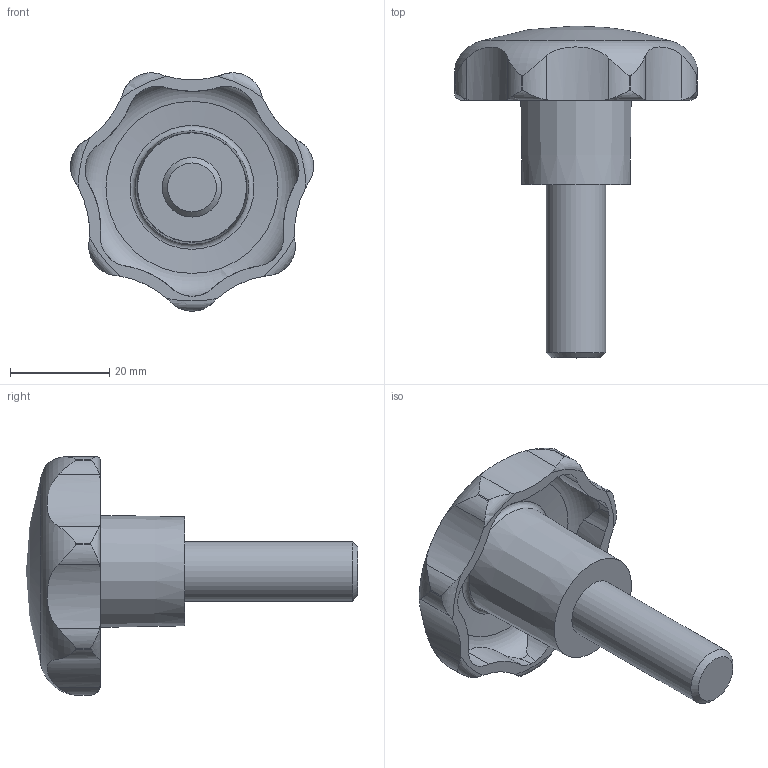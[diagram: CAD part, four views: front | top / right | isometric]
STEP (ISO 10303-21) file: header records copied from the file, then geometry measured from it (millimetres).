
FILE_DESCRIPTION( ( 'STEP AP203' ), '1' );
FILE_NAME( 'C:/Temp/Ganter_Step_05_03_2020/data/2_2/gn_6336_4/gn_6336_4_st/Star knob GN 6336.4-ST-50-M12-35.stp', '2020-03-05T12:07:41', ( 'License CC BY-ND 4.0' ), ( 'CADENAS' ), ' ', 'PARTsolutions', ' ' );
FILE_SCHEMA( ( 'CONFIG_CONTROL_DESIGN' ) );
Length unit declared in the file: millimetre
Products named in the file (1): _Star knob GN 6336.4-ST-50-M12-35
Bounding box: 49.04 x 67 x 48.12 mm (x, y, z)
Volume: 25098.4 mm3; surface area: 8761.6 mm2
Topology: 1 solids, 1 shells, 74 faces, 209 edges, 138 vertices
Faces by surface type: cylinder 50, torus 10, cone 10, plane 3, sphere 1
Full cylindrical faces by diameter (mm): 12 x1
Entity records: 3234 total; most frequent: CARTESIAN_POINT 1425, ORIENTED_EDGE 394, DIRECTION 334, EDGE_CURVE 197, AXIS2_PLACEMENT_3D 146, VERTEX_POINT 135, B_SPLINE_CURVE_WITH_KNOTS 84, EDGE_LOOP 83
